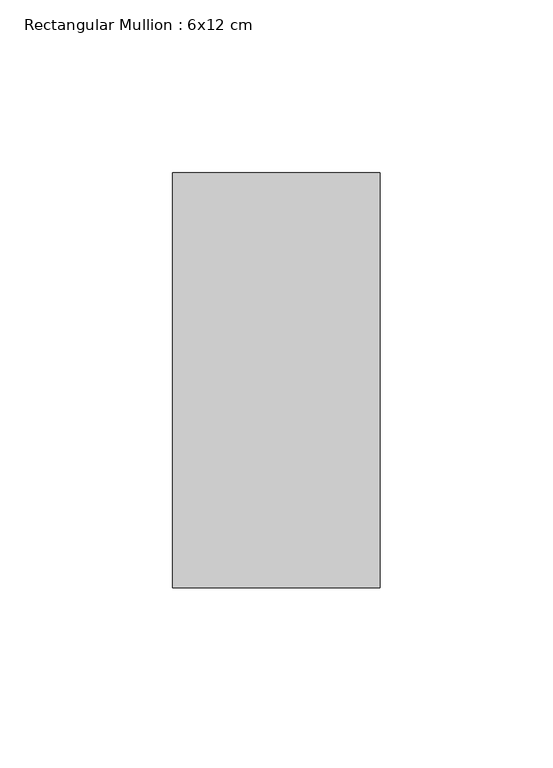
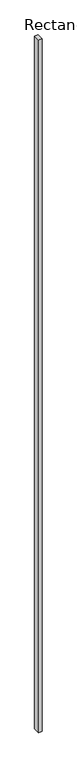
"""IFC4 building model written with IfcOpenShell, lengths in millimetres: member geometry, Rectangular Mullion : 6x12 cm."""

from ifc_helpers import new_model, si_unit, frame, origin, place, context, project, spatial, polyline, outline, extrude, source, transform, mapped, element, save


def rectangular_mullion_6x12_cm_137303ba(model_context):
    return source(origin(), model_context, "Body", "SweptSolid", [
        extrude(outline(polyline([(30.0, 205.0), (30.0, 85.0), (-30.0, 85.0), (-30.0, 205.0), (30.0, 205.0)])), frame((0.0, 0.0, -12523.2935212), z_axis=(0.0, 0.0, 1.0), x_axis=(1.0, 0.0, 0.0)), (0.0, 0.0, 1.0), 12523.2935212),
    ])


if __name__ == "__main__":
    model = new_model("IFC4")
    model_context = context("Model", 3, world=origin())
    ifc_project = project(units=[si_unit("LENGTHUNIT", "METRE", prefix="MILLI")], contexts=[model_context])
    site = spatial("IfcSite", under=ifc_project)
    building = spatial("IfcBuilding", under=site)
    placement = place(None, origin())
    rectangular_mullion_6x12_cm_shape = rectangular_mullion_6x12_cm_137303ba(model_context)
    element("IfcMember", 1, ObjectType="Rectangular Mullion : 6x12 cm", at=placement, inside=building, context=model_context, shape_type="MappedRepresentation", body=[
        mapped(rectangular_mullion_6x12_cm_shape, transform((0.0, 0.0, 0.0), x_axis=(1.0, 0.0, 0.0), y_axis=(0.0, 1.0, 0.0), z_axis=(0.0, 0.0, 1.0))),
    ])
    save(model, "model.ifc")
